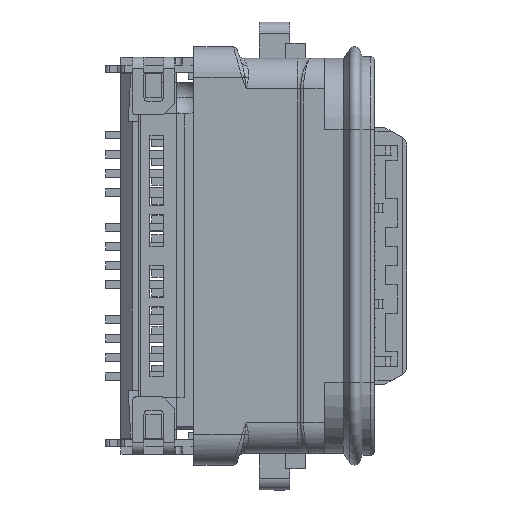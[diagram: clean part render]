
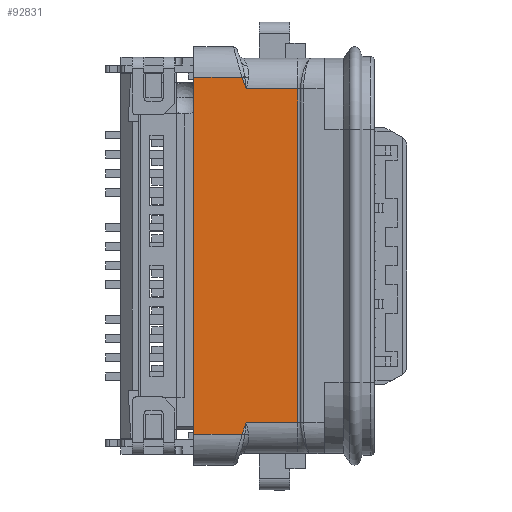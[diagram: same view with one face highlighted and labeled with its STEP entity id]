
A CAD part, top view. The second image highlights one B-rep face of the part: STEP entity #92831.
In plain terms, the highlighted planar face has unit normal (0, 0, 1).
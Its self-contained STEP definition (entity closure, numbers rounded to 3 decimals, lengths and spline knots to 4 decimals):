
#1003=DIRECTION('',(0.,-1.,0.));
#1004=VECTOR('',#1003,9.3);
#1005=CARTESIAN_POINT('',(-7.45,17.65,1.785));
#1006=LINE('',#1005,#1004);
#29150=DIRECTION('',(1.,0.,0.));
#29151=VECTOR('',#29150,1.2613);
#29152=CARTESIAN_POINT('',(-7.45,8.35,1.785));
#29153=LINE('',#29152,#29151);
#29158=DIRECTION('',(0.,-1.,0.));
#29159=VECTOR('',#29158,8.7);
#29160=CARTESIAN_POINT('',(-4.7391,17.35,1.785));
#29161=LINE('',#29160,#29159);
#29162=DIRECTION('',(-0.316,-0.949,0.));
#29163=VECTOR('',#29162,0.3162);
#29164=CARTESIAN_POINT('',(-6.0887,8.65,1.785));
#29165=LINE('',#29164,#29163);
#29166=DIRECTION('',(0.316,-0.949,0.));
#29167=VECTOR('',#29166,0.3162);
#29168=CARTESIAN_POINT('',(-6.1887,17.65,
1.785));
#29169=LINE('',#29168,#29167);
#29245=DIRECTION('',(1.,0.,0.));
#29246=VECTOR('',#29245,1.3496);
#29247=CARTESIAN_POINT('',(-6.0887,8.65,1.785));
#29248=LINE('',#29247,#29246);
#29440=DIRECTION('',(-1.,0.,0.));
#29441=VECTOR('',#29440,1.3496);
#29442=CARTESIAN_POINT('',(-4.7391,17.35,1.785));
#29443=LINE('',#29442,#29441);
#29617=DIRECTION('',(-1.,0.,0.));
#29618=VECTOR('',#29617,1.2613);
#29619=CARTESIAN_POINT('',(-6.1887,17.65,
1.785));
#29620=LINE('',#29619,#29618);
#37069=CARTESIAN_POINT('',(-4.7391,8.65,1.785));
#37071=VERTEX_POINT('',#37069);
#37072=CARTESIAN_POINT('',(-4.7391,17.35,1.785));
#37073=VERTEX_POINT('',#37072);
#37074=CARTESIAN_POINT('',(-6.0887,8.65,1.785));
#37075=CARTESIAN_POINT('',(-6.1887,8.35,
1.785));
#37076=VERTEX_POINT('',#37074);
#37077=VERTEX_POINT('',#37075);
#37078=CARTESIAN_POINT('',(-7.45,17.65,1.785));
#37079=CARTESIAN_POINT('',(-7.45,8.35,1.785));
#37080=VERTEX_POINT('',#37078);
#37081=VERTEX_POINT('',#37079);
#37082=CARTESIAN_POINT('',(-6.1887,17.65,
1.785));
#37083=CARTESIAN_POINT('',(-6.0887,17.35,1.785));
#37084=VERTEX_POINT('',#37082);
#37085=VERTEX_POINT('',#37083);
#92810=CARTESIAN_POINT('',(-6.0946,13.,1.785));
#92811=DIRECTION('',(0.,0.,1.));
#92812=DIRECTION('',(0.,1.,0.));
#92813=AXIS2_PLACEMENT_3D('',#92810,#92811,#92812);
#92814=PLANE('',#92813);
#92816=ORIENTED_EDGE('',*,*,#92815,.T.);
#92818=ORIENTED_EDGE('',*,*,#92817,.F.);
#92820=ORIENTED_EDGE('',*,*,#92819,.T.);
#92821=ORIENTED_EDGE('',*,*,#92801,.F.);
#92822=ORIENTED_EDGE('',*,*,#42671,.F.);
#92824=ORIENTED_EDGE('',*,*,#92823,.F.);
#92826=ORIENTED_EDGE('',*,*,#92825,.T.);
#92828=ORIENTED_EDGE('',*,*,#92827,.F.);
#92829=EDGE_LOOP('',(#92816,#92818,#92820,#92821,#92822,#92824,#92826,#92828));
#92830=FACE_OUTER_BOUND('',#92829,.F.);
#92831=ADVANCED_FACE('',(#92830),#92814,.T.);
#42671=EDGE_CURVE('',#37080,#37081,#1006,.T.);
#92801=EDGE_CURVE('',#37081,#37077,#29153,.T.);
#92815=EDGE_CURVE('',#37073,#37071,#29161,.T.);
#92817=EDGE_CURVE('',#37076,#37071,#29248,.T.);
#92819=EDGE_CURVE('',#37076,#37077,#29165,.T.);
#92823=EDGE_CURVE('',#37084,#37080,#29620,.T.);
#92825=EDGE_CURVE('',#37084,#37085,#29169,.T.);
#92827=EDGE_CURVE('',#37073,#37085,#29443,.T.);
